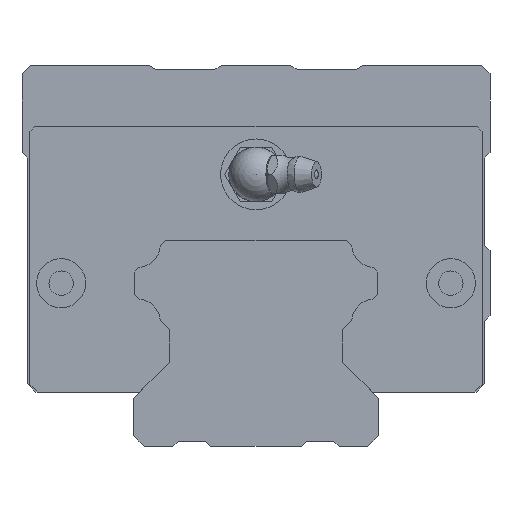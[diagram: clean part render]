
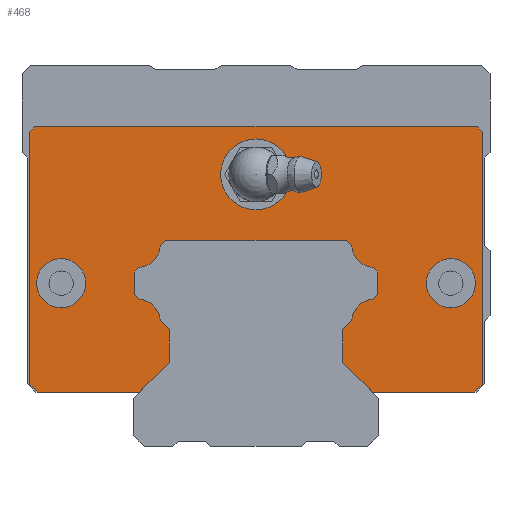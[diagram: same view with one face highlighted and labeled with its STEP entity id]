
A CAD part, front view. The second image highlights one B-rep face of the part: STEP entity #468.
In plain terms, the highlighted planar face has unit normal (0, -1, 0).
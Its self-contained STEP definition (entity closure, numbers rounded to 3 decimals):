
#185=FACE_BOUND('',#950,.T.);
#186=FACE_BOUND('',#951,.T.);
#187=FACE_BOUND('',#952,.T.);
#291=CIRCLE('',#3246,4.35);
#293=CIRCLE('',#3252,4.35);
#295=CIRCLE('',#3258,4.35);
#297=CIRCLE('',#3264,4.35);
#305=CIRCLE('',#3304,6.5);
#306=CIRCLE('',#3305,4.5);
#307=CIRCLE('',#3306,4.5);
#468=ADVANCED_FACE('',(#185,#186,#187,#755),#608,.F.);
#608=PLANE('',#3307);
#755=FACE_OUTER_BOUND('',#953,.T.);
#950=EDGE_LOOP('',(#1685));
#951=EDGE_LOOP('',(#1686));
#952=EDGE_LOOP('',(#1687));
#953=EDGE_LOOP('',(#1688,#1689,#1690,#1691,#1692,#1693,#1694,#1695,#1696,
#1697,#1698,#1699,#1700,#1701,#1702,#1703,#1704,#1705,#1706,#1707,#1708,
#1709,#1710,#1711,#1712,#1713,#1714,#1715));
#1685=ORIENTED_EDGE('',*,*,#2465,.F.);
#1686=ORIENTED_EDGE('',*,*,#2466,.F.);
#1687=ORIENTED_EDGE('',*,*,#2467,.F.);
#1688=ORIENTED_EDGE('',*,*,#2453,.F.);
#1689=ORIENTED_EDGE('',*,*,#2464,.T.);
#1690=ORIENTED_EDGE('',*,*,#2462,.T.);
#1691=ORIENTED_EDGE('',*,*,#2401,.T.);
#1692=ORIENTED_EDGE('',*,*,#2393,.F.);
#1693=ORIENTED_EDGE('',*,*,#2390,.F.);
#1694=ORIENTED_EDGE('',*,*,#2387,.T.);
#1695=ORIENTED_EDGE('',*,*,#2384,.T.);
#1696=ORIENTED_EDGE('',*,*,#2381,.T.);
#1697=ORIENTED_EDGE('',*,*,#2378,.F.);
#1698=ORIENTED_EDGE('',*,*,#2375,.F.);
#1699=ORIENTED_EDGE('',*,*,#2372,.T.);
#1700=ORIENTED_EDGE('',*,*,#2369,.F.);
#1701=ORIENTED_EDGE('',*,*,#2366,.T.);
#1702=ORIENTED_EDGE('',*,*,#2363,.T.);
#1703=ORIENTED_EDGE('',*,*,#2360,.T.);
#1704=ORIENTED_EDGE('',*,*,#2357,.T.);
#1705=ORIENTED_EDGE('',*,*,#2354,.T.);
#1706=ORIENTED_EDGE('',*,*,#2351,.F.);
#1707=ORIENTED_EDGE('',*,*,#2348,.T.);
#1708=ORIENTED_EDGE('',*,*,#2345,.F.);
#1709=ORIENTED_EDGE('',*,*,#2342,.T.);
#1710=ORIENTED_EDGE('',*,*,#2339,.T.);
#1711=ORIENTED_EDGE('',*,*,#2334,.F.);
#1712=ORIENTED_EDGE('',*,*,#2461,.T.);
#1713=ORIENTED_EDGE('',*,*,#2459,.F.);
#1714=ORIENTED_EDGE('',*,*,#2457,.F.);
#1715=ORIENTED_EDGE('',*,*,#2455,.F.);
#1976=VERTEX_POINT('',#4848);
#1977=VERTEX_POINT('',#4850);
#1981=VERTEX_POINT('',#4860);
#1983=VERTEX_POINT('',#4866);
#1985=VERTEX_POINT('',#4872);
#1987=VERTEX_POINT('',#4878);
#1989=VERTEX_POINT('',#4884);
#1991=VERTEX_POINT('',#4890);
#1993=VERTEX_POINT('',#4896);
#1995=VERTEX_POINT('',#4902);
#1997=VERTEX_POINT('',#4908);
#1999=VERTEX_POINT('',#4914);
#2001=VERTEX_POINT('',#4920);
#2003=VERTEX_POINT('',#4926);
#2005=VERTEX_POINT('',#4932);
#2007=VERTEX_POINT('',#4938);
#2009=VERTEX_POINT('',#4944);
#2011=VERTEX_POINT('',#4950);
#2013=VERTEX_POINT('',#4956);
#2015=VERTEX_POINT('',#4962);
#2017=VERTEX_POINT('',#4968);
#2024=VERTEX_POINT('',#4984);
#2061=VERTEX_POINT('',#5093);
#2062=VERTEX_POINT('',#5095);
#2063=VERTEX_POINT('',#5099);
#2064=VERTEX_POINT('',#5103);
#2065=VERTEX_POINT('',#5107);
#2066=VERTEX_POINT('',#5113);
#2067=VERTEX_POINT('',#5119);
#2068=VERTEX_POINT('',#5121);
#2069=VERTEX_POINT('',#5123);
#2334=EDGE_CURVE('',#1976,#1977,#2669,.T.);
#2339=EDGE_CURVE('',#1981,#1977,#2674,.T.);
#2342=EDGE_CURVE('',#1983,#1981,#2677,.T.);
#2345=EDGE_CURVE('',#1983,#1985,#2680,.T.);
#2348=EDGE_CURVE('',#1987,#1985,#291,.T.);
#2351=EDGE_CURVE('',#1987,#1989,#2684,.T.);
#2354=EDGE_CURVE('',#1991,#1989,#2687,.T.);
#2357=EDGE_CURVE('',#1993,#1991,#2690,.T.);
#2360=EDGE_CURVE('',#1995,#1993,#293,.T.);
#2363=EDGE_CURVE('',#1997,#1995,#2694,.T.);
#2366=EDGE_CURVE('',#1999,#1997,#2697,.T.);
#2369=EDGE_CURVE('',#1999,#2001,#2700,.T.);
#2372=EDGE_CURVE('',#2003,#2001,#295,.T.);
#2375=EDGE_CURVE('',#2003,#2005,#2704,.T.);
#2378=EDGE_CURVE('',#2005,#2007,#2707,.T.);
#2381=EDGE_CURVE('',#2009,#2007,#2710,.T.);
#2384=EDGE_CURVE('',#2011,#2009,#297,.T.);
#2387=EDGE_CURVE('',#2013,#2011,#2714,.T.);
#2390=EDGE_CURVE('',#2013,#2015,#2717,.T.);
#2393=EDGE_CURVE('',#2015,#2017,#2720,.T.);
#2401=EDGE_CURVE('',#2024,#2017,#2728,.T.);
#2453=EDGE_CURVE('',#2061,#2062,#2774,.T.);
#2455=EDGE_CURVE('',#2062,#2063,#2776,.T.);
#2457=EDGE_CURVE('',#2063,#2064,#2778,.T.);
#2459=EDGE_CURVE('',#2064,#2065,#2780,.T.);
#2461=EDGE_CURVE('',#1976,#2065,#2782,.T.);
#2462=EDGE_CURVE('',#2066,#2024,#2783,.T.);
#2464=EDGE_CURVE('',#2061,#2066,#2785,.T.);
#2465=EDGE_CURVE('',#2067,#2067,#305,.T.);
#2466=EDGE_CURVE('',#2068,#2068,#306,.T.);
#2467=EDGE_CURVE('',#2069,#2069,#307,.T.);
#2669=LINE('',#4849,#2970);
#2674=LINE('',#4859,#2975);
#2677=LINE('',#4865,#2978);
#2680=LINE('',#4871,#2981);
#2684=LINE('',#4883,#2985);
#2687=LINE('',#4889,#2988);
#2690=LINE('',#4895,#2991);
#2694=LINE('',#4907,#2995);
#2697=LINE('',#4913,#2998);
#2700=LINE('',#4919,#3001);
#2704=LINE('',#4931,#3005);
#2707=LINE('',#4937,#3008);
#2710=LINE('',#4943,#3011);
#2714=LINE('',#4955,#3015);
#2717=LINE('',#4961,#3018);
#2720=LINE('',#4967,#3021);
#2728=LINE('',#4983,#3029);
#2774=LINE('',#5094,#3075);
#2776=LINE('',#5098,#3077);
#2778=LINE('',#5102,#3079);
#2780=LINE('',#5106,#3081);
#2782=LINE('',#5110,#3083);
#2783=LINE('',#5112,#3084);
#2785=LINE('',#5116,#3086);
#2970=VECTOR('',#3808,1.);
#2975=VECTOR('',#3815,1.);
#2978=VECTOR('',#3820,1.);
#2981=VECTOR('',#3825,1.);
#2985=VECTOR('',#3837,1.);
#2988=VECTOR('',#3842,1.);
#2991=VECTOR('',#3847,1.);
#2995=VECTOR('',#3859,1.);
#2998=VECTOR('',#3864,1.);
#3001=VECTOR('',#3869,1.);
#3005=VECTOR('',#3881,1.);
#3008=VECTOR('',#3886,1.);
#3011=VECTOR('',#3891,1.);
#3015=VECTOR('',#3903,1.);
#3018=VECTOR('',#3908,1.);
#3021=VECTOR('',#3913,1.);
#3029=VECTOR('',#3923,1.);
#3075=VECTOR('',#4023,1.);
#3077=VECTOR('',#4027,1.);
#3079=VECTOR('',#4031,1.);
#3081=VECTOR('',#4035,1.);
#3083=VECTOR('',#4039,1.);
#3084=VECTOR('',#4042,1.);
#3086=VECTOR('',#4046,1.);
#3246=AXIS2_PLACEMENT_3D('',#4877,#3830,#3831);
#3252=AXIS2_PLACEMENT_3D('',#4901,#3852,#3853);
#3258=AXIS2_PLACEMENT_3D('',#4925,#3874,#3875);
#3264=AXIS2_PLACEMENT_3D('',#4949,#3896,#3897);
#3304=AXIS2_PLACEMENT_3D('',#5118,#4049,#4050);
#3305=AXIS2_PLACEMENT_3D('',#5120,#4051,#4052);
#3306=AXIS2_PLACEMENT_3D('',#5122,#4053,#4054);
#3307=AXIS2_PLACEMENT_3D('',#5124,#4055,#4056);
#3808=DIRECTION('',(-1.,0.,0.));
#3815=DIRECTION('',(0.707,0.,-0.707));
#3820=DIRECTION('',(0.,0.,-1.));
#3825=DIRECTION('',(0.707,0.,0.707));
#3830=DIRECTION('',(0.,-1.,0.));
#3831=DIRECTION('',(1.,0.,0.));
#3837=DIRECTION('',(0.707,0.,0.707));
#3842=DIRECTION('',(0.,0.,-1.));
#3847=DIRECTION('',(0.707,0.,-0.707));
#3852=DIRECTION('',(0.,-1.,0.));
#3853=DIRECTION('',(1.,0.,0.));
#3859=DIRECTION('',(0.707,0.,-0.707));
#3864=DIRECTION('',(1.,0.,0.));
#3869=DIRECTION('',(-0.707,0.,-0.707));
#3874=DIRECTION('',(0.,-1.,0.));
#3875=DIRECTION('',(1.,0.,0.));
#3881=DIRECTION('',(-0.707,0.,-0.707));
#3886=DIRECTION('',(0.,0.,-1.));
#3891=DIRECTION('',(-0.707,0.,0.707));
#3896=DIRECTION('',(0.,-1.,0.));
#3897=DIRECTION('',(1.,0.,0.));
#3903=DIRECTION('',(-0.707,0.,0.707));
#3908=DIRECTION('',(0.,0.,-1.));
#3913=DIRECTION('',(-0.707,0.,-0.707));
#3923=DIRECTION('',(1.,0.,0.));
#4023=DIRECTION('',(0.707,0.,0.707));
#4027=DIRECTION('',(1.,0.,0.));
#4031=DIRECTION('',(0.707,0.,-0.707));
#4035=DIRECTION('',(0.,0.,-1.));
#4039=DIRECTION('',(0.707,0.,0.707));
#4042=DIRECTION('',(0.707,0.,-0.707));
#4046=DIRECTION('',(0.,0.,-1.));
#4049=DIRECTION('',(0.,-1.,0.));
#4050=DIRECTION('',(0.,0.,-1.));
#4051=DIRECTION('',(0.,-1.,0.));
#4052=DIRECTION('',(0.,0.,-1.));
#4053=DIRECTION('',(0.,-1.,0.));
#4054=DIRECTION('',(0.,0.,-1.));
#4055=DIRECTION('',(0.,1.,0.));
#4056=DIRECTION('',(0.,0.,-1.));
#4848=CARTESIAN_POINT('',(40.146,-83.75,10.));
#4849=CARTESIAN_POINT('',(40.146,-83.75,10.));
#4850=CARTESIAN_POINT('',(21.359,-83.75,10.));
#4859=CARTESIAN_POINT('',(15.9,-83.75,15.459));
#4860=CARTESIAN_POINT('',(15.9,-83.75,15.459));
#4865=CARTESIAN_POINT('',(15.9,-83.75,21.441));
#4866=CARTESIAN_POINT('',(15.9,-83.75,21.441));
#4871=CARTESIAN_POINT('',(15.9,-83.75,21.441));
#4872=CARTESIAN_POINT('',(17.575,-83.75,23.116));
#4877=CARTESIAN_POINT('',(21.912,-83.75,22.788));
#4878=CARTESIAN_POINT('',(21.584,-83.75,27.125));
#4883=CARTESIAN_POINT('',(21.584,-83.75,27.125));
#4884=CARTESIAN_POINT('',(22.4,-83.75,27.941));
#4889=CARTESIAN_POINT('',(22.4,-83.75,32.059));
#4890=CARTESIAN_POINT('',(22.4,-83.75,32.059));
#4895=CARTESIAN_POINT('',(21.584,-83.75,32.875));
#4896=CARTESIAN_POINT('',(21.584,-83.75,32.875));
#4901=CARTESIAN_POINT('',(21.912,-83.75,37.212));
#4902=CARTESIAN_POINT('',(17.575,-83.75,36.884));
#4907=CARTESIAN_POINT('',(16.559,-83.75,37.9));
#4908=CARTESIAN_POINT('',(16.559,-83.75,37.9));
#4913=CARTESIAN_POINT('',(-16.559,-83.75,37.9));
#4914=CARTESIAN_POINT('',(-16.559,-83.75,37.9));
#4919=CARTESIAN_POINT('',(-16.559,-83.75,37.9));
#4920=CARTESIAN_POINT('',(-17.575,-83.75,36.884));
#4925=CARTESIAN_POINT('',(-21.912,-83.75,37.212));
#4926=CARTESIAN_POINT('',(-21.584,-83.75,32.875));
#4931=CARTESIAN_POINT('',(-21.584,-83.75,32.875));
#4932=CARTESIAN_POINT('',(-22.4,-83.75,32.059));
#4937=CARTESIAN_POINT('',(-22.4,-83.75,32.059));
#4938=CARTESIAN_POINT('',(-22.4,-83.75,27.941));
#4943=CARTESIAN_POINT('',(-21.584,-83.75,27.125));
#4944=CARTESIAN_POINT('',(-21.584,-83.75,27.125));
#4949=CARTESIAN_POINT('',(-21.912,-83.75,22.788));
#4950=CARTESIAN_POINT('',(-17.575,-83.75,23.116));
#4955=CARTESIAN_POINT('',(-15.9,-83.75,21.441));
#4956=CARTESIAN_POINT('',(-15.9,-83.75,21.441));
#4961=CARTESIAN_POINT('',(-15.9,-83.75,21.441));
#4962=CARTESIAN_POINT('',(-15.9,-83.75,15.459));
#4967=CARTESIAN_POINT('',(-15.9,-83.75,15.459));
#4968=CARTESIAN_POINT('',(-21.359,-83.75,10.));
#4983=CARTESIAN_POINT('',(-40.146,-83.75,10.));
#4984=CARTESIAN_POINT('',(-40.146,-83.75,10.));
#5093=CARTESIAN_POINT('',(-41.55,-83.75,57.896));
#5094=CARTESIAN_POINT('',(-41.55,-83.75,57.896));
#5095=CARTESIAN_POINT('',(-40.696,-83.75,58.75));
#5098=CARTESIAN_POINT('',(-40.696,-83.75,58.75));
#5099=CARTESIAN_POINT('',(40.696,-83.75,58.75));
#5102=CARTESIAN_POINT('',(40.696,-83.75,58.75));
#5103=CARTESIAN_POINT('',(41.55,-83.75,57.896));
#5106=CARTESIAN_POINT('',(41.55,-83.75,57.896));
#5107=CARTESIAN_POINT('',(41.55,-83.75,11.404));
#5110=CARTESIAN_POINT('',(40.146,-83.75,10.));
#5112=CARTESIAN_POINT('',(-41.55,-83.75,11.404));
#5113=CARTESIAN_POINT('',(-41.55,-83.75,11.404));
#5116=CARTESIAN_POINT('',(-41.55,-83.75,57.896));
#5118=CARTESIAN_POINT('',(0.,-83.75,50.));
#5119=CARTESIAN_POINT('',(0.,-83.75,43.5));
#5120=CARTESIAN_POINT('',(35.8,-83.75,30.));
#5121=CARTESIAN_POINT('',(35.8,-83.75,25.5));
#5122=CARTESIAN_POINT('',(-35.8,-83.75,30.));
#5123=CARTESIAN_POINT('',(-35.8,-83.75,25.5));
#5124=CARTESIAN_POINT('',(21.912,-83.75,22.788));
